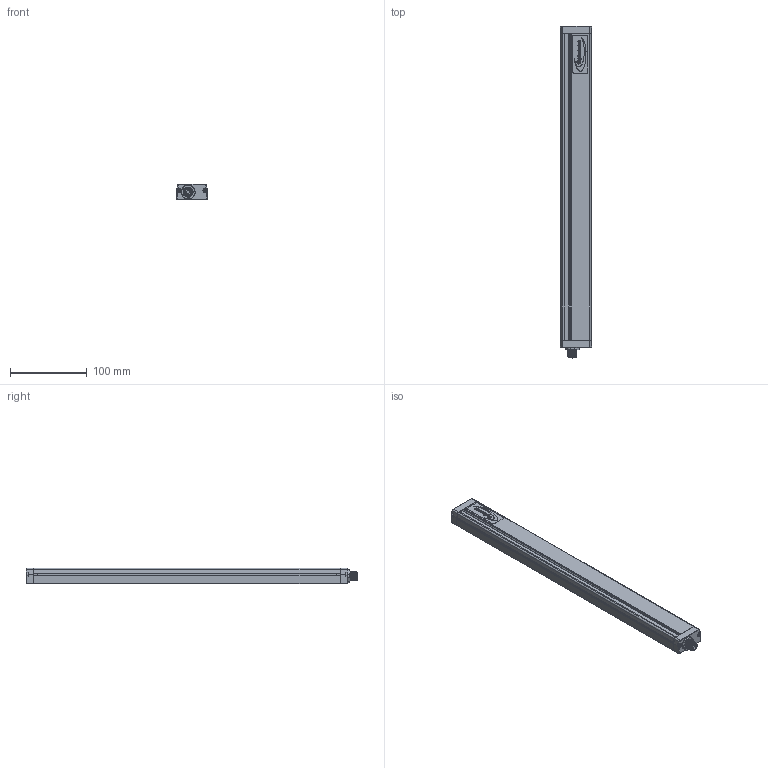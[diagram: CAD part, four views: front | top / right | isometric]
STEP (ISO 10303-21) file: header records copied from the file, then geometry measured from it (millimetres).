
FILE_DESCRIPTION(/* description */ (''),/* implementation_level */ '2;1');
FILE_NAME(/* name */ 'C:\Users\andre\SynologyDrive\Optoscan\Libreria Componenti\00 - Barriere\Barriera sorgente\Argo_400_TX.stp',/* time_stamp */ '2021-04-22T10:15:49+02:00',/* author */ ('andre'),/* organization */ (''),/* preprocessor_version */ 'ST-DEVELOPER v18',/* originating_system */ 'Autodesk Inventor 2020',/* authorisation */ '');
FILE_SCHEMA (('AUTOMOTIVE_DESIGN { 1 0 10303 214 3 1 1 }'));
Length unit declared in the file: millimetre
Products named in the file (1): Argo_400_TX
Bounding box: 40.5 x 433.3 x 20.75 mm (x, y, z)
Volume: 89373.3 mm3; surface area: 112777 mm2
Topology: 1 solids, 1 shells, 696 faces, 1911 edges, 1225 vertices
Faces by surface type: plane 321, cylinder 195, bspline 94, torus 72, cone 8, sphere 6
Full cylindrical faces by diameter (mm): 1 x4, 2.459 x4, 2.5 x4, 3 x4, 3.5 x4, 5.5 x4, 8 x1, 10.5 x2, 11.75 x9, 15.7 x1, 17.5 x1
Entity records: 30770 total; most frequent: CARTESIAN_POINT 12670, ORIENTED_EDGE 3806, DIRECTION 3415, EDGE_CURVE 1903, VERTEX_POINT 1225, AXIS2_PLACEMENT_3D 1193, LINE 1029, VECTOR 1029
